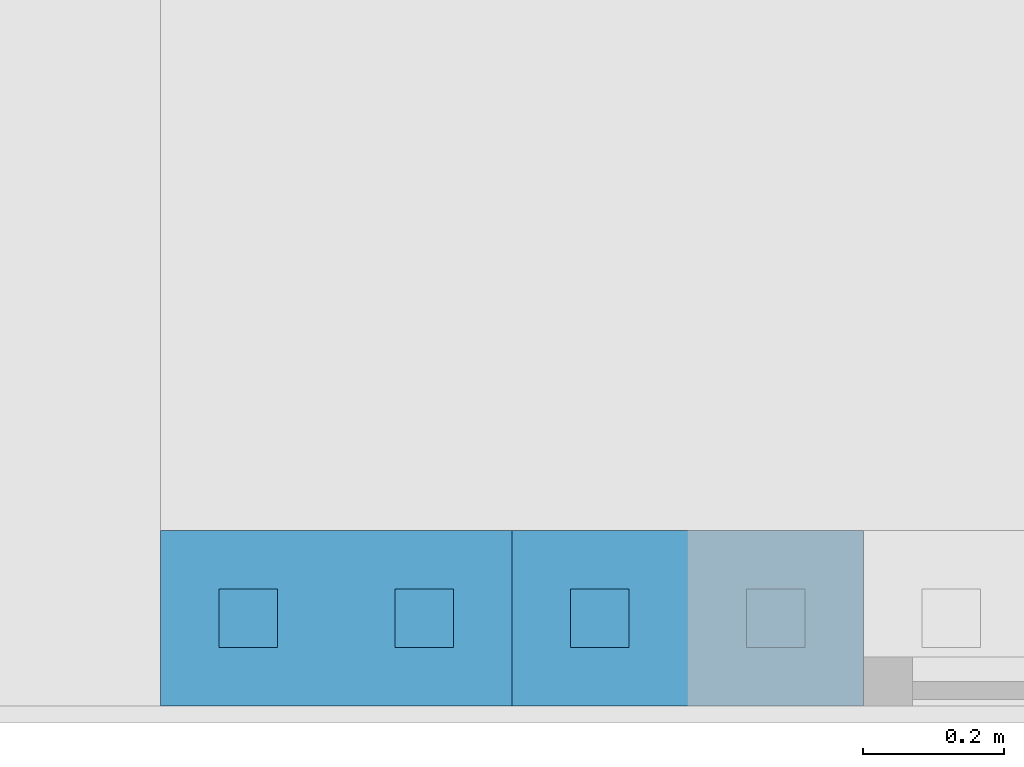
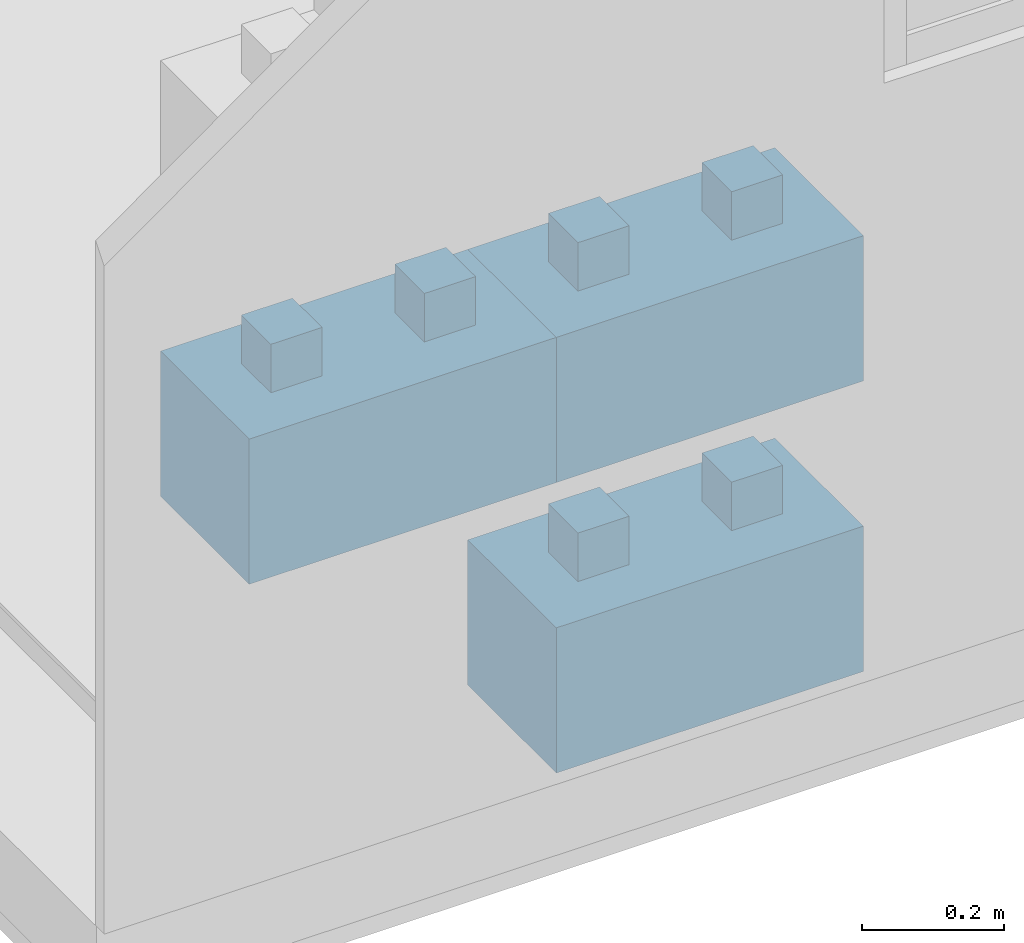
# One storey, part 5 of 9: 3 walls.
"""IFC4 building model written with IfcOpenShell, lengths in centimetres."""

from ifc_helpers import new_model, entity, si_unit, converted_unit, direction, frame, origin, place, context, subcontext, project, spatial, indexed_curve, outline, extrude, material, type_object, element, save


model = new_model("IFC4")

# Units and contexts
model_context = context("Model", 3, precision=0.001, world=origin(), true_north=direction((0.0, 1.0)))
body_context = subcontext(model_context, "Body", "Model", "MODEL_VIEW")
ifc_project = project(units=[si_unit("LENGTHUNIT", "METRE", prefix="CENTI"), si_unit("AREAUNIT", "SQUARE_METRE"), si_unit("VOLUMEUNIT", "CUBIC_METRE"), converted_unit("PLANEANGLEUNIT", "DEGREE", entity("IfcPlaneAngleMeasure", 0.017453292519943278), si_unit("PLANEANGLEUNIT", "RADIAN"), dimensions=[0, 0, 0, 0, 0, 0, 0])], contexts=[model_context])

# Site, building, storey
site_placement = place(None, origin())
site = spatial("IfcSite", under=ifc_project, at=site_placement, Name="Default", CompositionType="ELEMENT")
building_placement = place(site_placement, origin())
building = spatial("IfcBuilding", under=site, at=building_placement, CompositionType="ELEMENT")
storey_placement = place(building_placement, frame((0.0, 0.0, -4.0)))
storey = spatial("IfcBuildingStorey", under=building, at=storey_placement, Name="L00__ABOVE Slab", CompositionType="ELEMENT", Elevation=-4.000000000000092)

# Walls
ifc_material = material(Name="Miscellaneous__Timber Block__Triqbriq, X", Category="Miscellaneous")
wall_type = type_object("IfcWallType", Name="Columns : wll_s__TIMBER BLOCK__Triqbriq, Full Width__wp : WS25", PredefinedType="SOLIDWALL", material=ifc_material)
wall_1_placement = place(storey_placement, frame((2956.828914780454, 2128.520030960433, 50.0)))
element("IfcWall", 1, at=wall_1_placement, inside=storey, type_object=wall_type, material=ifc_material, Name="Columns : wll_s__TIMBER BLOCK__Triqbriq, Full Width__wp : WS25", PredefinedType="SOLIDWALL", context=body_context, shape_type="SweptSolid", body=[
    extrude(outline(indexed_curve([(-4.166666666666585, -4.166666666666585), (4.166666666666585, -4.166666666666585), (4.166666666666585, 4.166666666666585), (-4.166666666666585, 4.166666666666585), (-4.166666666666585, -4.166666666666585)], self_intersect=False)), frame((37.50000000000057, 12.500000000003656, 16.666666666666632), z_axis=(0.0, 0.0, 1.0), x_axis=(0.0, 1.0, 0.0)), (0.0, 0.0, 1.0), 16.666666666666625),
    extrude(outline(indexed_curve([(-4.166666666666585, -4.166666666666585), (4.166666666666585, -4.166666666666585), (4.166666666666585, 4.166666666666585), (-4.166666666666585, 4.166666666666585), (-4.166666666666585, -4.166666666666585)], self_intersect=False)), frame((12.500000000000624, 12.500000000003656, 16.666666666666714), z_axis=(0.0, 0.0, 1.0), x_axis=(0.0, 1.0, 0.0)), (0.0, 0.0, 1.0), 16.666666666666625),
    extrude(outline(indexed_curve([(-4.166666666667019, -4.166666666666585), (4.166666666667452, -4.166666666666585), (4.166666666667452, 4.166666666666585), (-4.166666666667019, 4.166666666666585), (-4.166666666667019, -4.166666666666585)], self_intersect=False)), frame((45.83333333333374, 20.833333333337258, 8.333333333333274), z_axis=(0.0, 0.0, 1.0), x_axis=(0.0, 1.0, 0.0)), (0.0, 0.0, 1.0), 8.333333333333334),
    extrude(outline(indexed_curve([(-4.166666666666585, -4.166666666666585), (4.166666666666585, -4.166666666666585), (4.166666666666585, 4.166666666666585), (-4.166666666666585, 4.166666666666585), (-4.166666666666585, -4.166666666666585)], self_intersect=False)), frame((45.83333333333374, 4.166666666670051, 8.333333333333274), z_axis=(0.0, 0.0, 1.0), x_axis=(0.0, 1.0, 0.0)), (0.0, 0.0, 1.0), 8.333333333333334),
    extrude(outline(indexed_curve([(-4.166666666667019, -4.166666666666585), (4.166666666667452, -4.166666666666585), (4.166666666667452, 4.166666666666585), (-4.166666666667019, 4.166666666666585), (-4.166666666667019, -4.166666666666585)], self_intersect=False)), frame((4.166666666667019, 20.833333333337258, 8.333333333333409), z_axis=(0.0, 0.0, 1.0), x_axis=(0.0, 1.0, 0.0)), (0.0, 0.0, 1.0), 8.333333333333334),
    extrude(outline(indexed_curve([(-4.166666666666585, -4.166666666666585), (4.166666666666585, -4.166666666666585), (4.166666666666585, 4.166666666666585), (-4.166666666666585, 4.166666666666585), (-4.166666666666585, -4.166666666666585)], self_intersect=False)), frame((4.166666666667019, 4.166666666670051, 8.333333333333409), z_axis=(0.0, 0.0, 1.0), x_axis=(0.0, 1.0, 0.0)), (0.0, 0.0, 1.0), 8.333333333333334),
    extrude(outline(indexed_curve([(-4.166666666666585, -8.333333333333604), (4.166666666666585, -8.333333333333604), (4.166666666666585, 8.33333333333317), (-4.166666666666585, 8.33333333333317), (-4.166666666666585, -8.333333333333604)], self_intersect=False)), frame((25.0, 4.166666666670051, 8.333333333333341), z_axis=(0.0, 0.0, 1.0), x_axis=(0.0, 1.0, 0.0)), (0.0, 0.0, 1.0), 8.333333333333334),
    extrude(outline(indexed_curve([(-4.166666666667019, -8.333333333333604), (4.166666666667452, -8.333333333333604), (4.166666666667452, 8.33333333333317), (-4.166666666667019, 8.33333333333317), (-4.166666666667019, -8.333333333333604)], self_intersect=False)), frame((25.0, 20.833333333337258, 8.333333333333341), z_axis=(0.0, 0.0, 1.0), x_axis=(0.0, 1.0, 0.0)), (0.0, 0.0, 1.0), 8.333333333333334),
    extrude(outline(indexed_curve([(-4.166666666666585, -24.999999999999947), (4.166666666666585, -24.999999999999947), (4.166666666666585, 24.999999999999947), (-4.166666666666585, 24.999999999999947), (-4.166666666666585, -24.999999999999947)], self_intersect=False)), frame((25.0, 12.500000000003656, 8.333333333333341), z_axis=(0.0, 0.0, 1.0), x_axis=(0.0, 1.0, 0.0)), (0.0, 0.0, 1.0), 8.333333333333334),
    extrude(outline(indexed_curve([(-12.500000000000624, -4.166666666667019), (12.50000000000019, -4.166666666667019), (12.50000000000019, 4.166666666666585), (-12.500000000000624, 4.166666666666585), (-12.500000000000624, -4.166666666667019)], self_intersect=False)), frame((29.1666666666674, 12.50000000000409, 0.0), z_axis=(0.0, 0.0, 1.0), x_axis=(0.0, 1.0, 0.0)), (0.0, 0.0, 1.0), 8.333333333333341),
    extrude(outline(indexed_curve([(-12.500000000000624, -4.166666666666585), (12.50000000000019, -4.166666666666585), (12.50000000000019, 4.166666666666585), (-12.500000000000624, 4.166666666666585), (-12.500000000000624, -4.166666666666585)], self_intersect=False)), frame((20.833333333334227, 12.50000000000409, 0.0), z_axis=(0.0, 0.0, 1.0), x_axis=(0.0, 1.0, 0.0)), (0.0, 0.0, 1.0), 8.333333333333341),
    extrude(outline(indexed_curve([(-12.500000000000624, -4.166666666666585), (12.50000000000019, -4.166666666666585), (12.50000000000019, 4.166666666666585), (-12.500000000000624, 4.166666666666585), (-12.500000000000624, -4.166666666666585)], self_intersect=False)), frame((45.833333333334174, 12.50000000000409, 0.0), z_axis=(0.0, 0.0, 1.0), x_axis=(0.0, 1.0, 0.0)), (0.0, 0.0, 1.0), 8.333333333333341),
    extrude(outline(indexed_curve([(-12.500000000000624, -4.166666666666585), (12.50000000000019, -4.166666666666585), (12.50000000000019, 4.166666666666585), (-12.500000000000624, 4.166666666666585), (-12.500000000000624, -4.166666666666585)], self_intersect=False)), frame((4.166666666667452, 12.50000000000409, 0.0), z_axis=(0.0, 0.0, 1.0), x_axis=(0.0, 1.0, 0.0)), (0.0, 0.0, 1.0), 8.333333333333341),
    extrude(outline(indexed_curve([(-4.166666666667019, -4.166666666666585), (4.166666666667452, -4.166666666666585), (4.166666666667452, 4.166666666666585), (-4.166666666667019, 4.166666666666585), (-4.166666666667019, -4.166666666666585)], self_intersect=False)), frame((37.500000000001, 20.833333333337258, 0.0), z_axis=(0.0, 0.0, 1.0), x_axis=(0.0, 1.0, 0.0)), (0.0, 0.0, 1.0), 24.999999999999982),
    extrude(outline(indexed_curve([(-4.166666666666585, -4.166666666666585), (4.166666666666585, -4.166666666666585), (4.166666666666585, 4.166666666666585), (-4.166666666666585, 4.166666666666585), (-4.166666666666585, -4.166666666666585)], self_intersect=False)), frame((37.500000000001, 4.166666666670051, 0.0), z_axis=(0.0, 0.0, 1.0), x_axis=(0.0, 1.0, 0.0)), (0.0, 0.0, 1.0), 24.999999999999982),
    extrude(outline(indexed_curve([(-4.166666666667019, -4.166666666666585), (4.166666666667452, -4.166666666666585), (4.166666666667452, 4.166666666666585), (-4.166666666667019, 4.166666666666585), (-4.166666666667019, -4.166666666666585)], self_intersect=False)), frame((12.500000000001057, 20.833333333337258, 0.0), z_axis=(0.0, 0.0, 1.0), x_axis=(0.0, 1.0, 0.0)), (0.0, 0.0, 1.0), 24.999999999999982),
    extrude(outline(indexed_curve([(-4.166666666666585, -4.166666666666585), (4.166666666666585, -4.166666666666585), (4.166666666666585, 4.166666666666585), (-4.166666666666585, 4.166666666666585), (-4.166666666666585, -4.166666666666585)], self_intersect=False)), frame((12.500000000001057, 4.166666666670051, 0.0), z_axis=(0.0, 0.0, 1.0), x_axis=(0.0, 1.0, 0.0)), (0.0, 0.0, 1.0), 24.999999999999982),
    extrude(outline(indexed_curve([(-12.500000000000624, -4.166666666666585), (12.50000000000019, -4.166666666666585), (12.50000000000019, 4.166666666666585), (-12.500000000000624, 4.166666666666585), (-12.500000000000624, -4.166666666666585)], self_intersect=False)), frame((45.83333333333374, 12.50000000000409, 16.666666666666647), z_axis=(0.0, 0.0, 1.0), x_axis=(0.0, 1.0, 0.0)), (0.0, 0.0, 1.0), 8.333333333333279),
    extrude(outline(indexed_curve([(-12.500000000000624, -4.166666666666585), (12.50000000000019, -4.166666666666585), (12.50000000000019, 4.166666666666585), (-12.500000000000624, 4.166666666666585), (-12.500000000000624, -4.166666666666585)], self_intersect=False)), frame((29.1666666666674, 12.50000000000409, 16.6666666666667), z_axis=(0.0, 0.0, 1.0), x_axis=(0.0, 1.0, 0.0)), (0.0, 0.0, 1.0), 8.333333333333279),
    extrude(outline(indexed_curve([(-12.500000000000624, -4.166666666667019), (12.50000000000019, -4.166666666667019), (12.50000000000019, 4.166666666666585), (-12.500000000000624, 4.166666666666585), (-12.500000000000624, -4.166666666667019)], self_intersect=False)), frame((20.833333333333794, 12.50000000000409, 16.66666666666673), z_axis=(0.0, 0.0, 1.0), x_axis=(0.0, 1.0, 0.0)), (0.0, 0.0, 1.0), 8.333333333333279),
    extrude(outline(indexed_curve([(-12.500000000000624, -4.166666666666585), (12.50000000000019, -4.166666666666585), (12.50000000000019, 4.166666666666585), (-12.500000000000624, 4.166666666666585), (-12.500000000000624, -4.166666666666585)], self_intersect=False)), frame((4.166666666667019, 12.50000000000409, 16.66666666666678), z_axis=(0.0, 0.0, 1.0), x_axis=(0.0, 1.0, 0.0)), (0.0, 0.0, 1.0), 8.333333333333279),
])
wall_2_placement = place(storey_placement, frame((2906.8289147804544, 2128.520030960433, 50.0)))
element("IfcWall", 2, at=wall_2_placement, inside=storey, type_object=wall_type, material=ifc_material, Name="Columns : wll_s__TIMBER BLOCK__Triqbriq, Full Width__wp : WS25", PredefinedType="SOLIDWALL", context=body_context, shape_type="SweptSolid", body=[
    extrude(outline(indexed_curve([(-4.166666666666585, -4.166666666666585), (4.166666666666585, -4.166666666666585), (4.166666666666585, 4.166666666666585), (-4.166666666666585, 4.166666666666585), (-4.166666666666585, -4.166666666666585)], self_intersect=False)), frame((37.50000000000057, 12.500000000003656, 16.666666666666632), z_axis=(0.0, 0.0, 1.0), x_axis=(0.0, 1.0, 0.0)), (0.0, 0.0, 1.0), 16.666666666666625),
    extrude(outline(indexed_curve([(-4.166666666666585, -4.166666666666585), (4.166666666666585, -4.166666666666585), (4.166666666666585, 4.166666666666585), (-4.166666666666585, 4.166666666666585), (-4.166666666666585, -4.166666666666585)], self_intersect=False)), frame((12.500000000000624, 12.500000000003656, 16.666666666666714), z_axis=(0.0, 0.0, 1.0), x_axis=(0.0, 1.0, 0.0)), (0.0, 0.0, 1.0), 16.666666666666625),
    extrude(outline(indexed_curve([(-4.166666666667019, -4.166666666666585), (4.166666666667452, -4.166666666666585), (4.166666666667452, 4.166666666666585), (-4.166666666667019, 4.166666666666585), (-4.166666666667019, -4.166666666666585)], self_intersect=False)), frame((45.83333333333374, 20.833333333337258, 8.333333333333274), z_axis=(0.0, 0.0, 1.0), x_axis=(0.0, 1.0, 0.0)), (0.0, 0.0, 1.0), 8.333333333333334),
    extrude(outline(indexed_curve([(-4.166666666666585, -4.166666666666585), (4.166666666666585, -4.166666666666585), (4.166666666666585, 4.166666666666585), (-4.166666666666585, 4.166666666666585), (-4.166666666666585, -4.166666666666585)], self_intersect=False)), frame((45.83333333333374, 4.166666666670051, 8.333333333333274), z_axis=(0.0, 0.0, 1.0), x_axis=(0.0, 1.0, 0.0)), (0.0, 0.0, 1.0), 8.333333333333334),
    extrude(outline(indexed_curve([(-4.166666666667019, -4.166666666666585), (4.166666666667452, -4.166666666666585), (4.166666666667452, 4.166666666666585), (-4.166666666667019, 4.166666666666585), (-4.166666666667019, -4.166666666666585)], self_intersect=False)), frame((4.166666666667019, 20.833333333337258, 8.333333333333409), z_axis=(0.0, 0.0, 1.0), x_axis=(0.0, 1.0, 0.0)), (0.0, 0.0, 1.0), 8.333333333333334),
    extrude(outline(indexed_curve([(-4.166666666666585, -4.166666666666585), (4.166666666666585, -4.166666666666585), (4.166666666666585, 4.166666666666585), (-4.166666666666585, 4.166666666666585), (-4.166666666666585, -4.166666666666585)], self_intersect=False)), frame((4.166666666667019, 4.166666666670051, 8.333333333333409), z_axis=(0.0, 0.0, 1.0), x_axis=(0.0, 1.0, 0.0)), (0.0, 0.0, 1.0), 8.333333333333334),
    extrude(outline(indexed_curve([(-4.166666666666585, -8.33333333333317), (4.166666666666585, -8.33333333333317), (4.166666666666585, 8.333333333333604), (-4.166666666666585, 8.333333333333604), (-4.166666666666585, -8.33333333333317)], self_intersect=False)), frame((25.0, 4.166666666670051, 8.333333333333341), z_axis=(0.0, 0.0, 1.0), x_axis=(0.0, 1.0, 0.0)), (0.0, 0.0, 1.0), 8.333333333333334),
    extrude(outline(indexed_curve([(-4.166666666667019, -8.33333333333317), (4.166666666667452, -8.33333333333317), (4.166666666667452, 8.333333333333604), (-4.166666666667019, 8.333333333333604), (-4.166666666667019, -8.33333333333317)], self_intersect=False)), frame((25.0, 20.833333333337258, 8.333333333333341), z_axis=(0.0, 0.0, 1.0), x_axis=(0.0, 1.0, 0.0)), (0.0, 0.0, 1.0), 8.333333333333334),
    extrude(outline(indexed_curve([(-4.166666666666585, -24.999999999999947), (4.166666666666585, -24.999999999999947), (4.166666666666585, 24.999999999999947), (-4.166666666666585, 24.999999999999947), (-4.166666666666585, -24.999999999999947)], self_intersect=False)), frame((25.0, 12.500000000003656, 8.333333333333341), z_axis=(0.0, 0.0, 1.0), x_axis=(0.0, 1.0, 0.0)), (0.0, 0.0, 1.0), 8.333333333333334),
    extrude(outline(indexed_curve([(-12.500000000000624, -4.166666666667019), (12.50000000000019, -4.166666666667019), (12.50000000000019, 4.166666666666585), (-12.500000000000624, 4.166666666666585), (-12.500000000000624, -4.166666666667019)], self_intersect=False)), frame((29.1666666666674, 12.50000000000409, 0.0), z_axis=(0.0, 0.0, 1.0), x_axis=(0.0, 1.0, 0.0)), (0.0, 0.0, 1.0), 8.333333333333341),
    extrude(outline(indexed_curve([(-12.500000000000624, -4.166666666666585), (12.50000000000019, -4.166666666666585), (12.50000000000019, 4.166666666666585), (-12.500000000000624, 4.166666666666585), (-12.500000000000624, -4.166666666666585)], self_intersect=False)), frame((20.833333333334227, 12.50000000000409, 0.0), z_axis=(0.0, 0.0, 1.0), x_axis=(0.0, 1.0, 0.0)), (0.0, 0.0, 1.0), 8.333333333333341),
    extrude(outline(indexed_curve([(-12.500000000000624, -4.166666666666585), (12.50000000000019, -4.166666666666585), (12.50000000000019, 4.166666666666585), (-12.500000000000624, 4.166666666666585), (-12.500000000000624, -4.166666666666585)], self_intersect=False)), frame((45.833333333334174, 12.50000000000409, 0.0), z_axis=(0.0, 0.0, 1.0), x_axis=(0.0, 1.0, 0.0)), (0.0, 0.0, 1.0), 8.333333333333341),
    extrude(outline(indexed_curve([(-12.500000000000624, -4.166666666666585), (12.50000000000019, -4.166666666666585), (12.50000000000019, 4.166666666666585), (-12.500000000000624, 4.166666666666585), (-12.500000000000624, -4.166666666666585)], self_intersect=False)), frame((4.166666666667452, 12.50000000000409, 0.0), z_axis=(0.0, 0.0, 1.0), x_axis=(0.0, 1.0, 0.0)), (0.0, 0.0, 1.0), 8.333333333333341),
    extrude(outline(indexed_curve([(-4.166666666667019, -4.166666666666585), (4.166666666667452, -4.166666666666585), (4.166666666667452, 4.166666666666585), (-4.166666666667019, 4.166666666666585), (-4.166666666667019, -4.166666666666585)], self_intersect=False)), frame((37.500000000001, 20.833333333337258, 0.0), z_axis=(0.0, 0.0, 1.0), x_axis=(0.0, 1.0, 0.0)), (0.0, 0.0, 1.0), 24.999999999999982),
    extrude(outline(indexed_curve([(-4.166666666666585, -4.166666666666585), (4.166666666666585, -4.166666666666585), (4.166666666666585, 4.166666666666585), (-4.166666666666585, 4.166666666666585), (-4.166666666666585, -4.166666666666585)], self_intersect=False)), frame((37.500000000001, 4.166666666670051, 0.0), z_axis=(0.0, 0.0, 1.0), x_axis=(0.0, 1.0, 0.0)), (0.0, 0.0, 1.0), 24.999999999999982),
    extrude(outline(indexed_curve([(-4.166666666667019, -4.166666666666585), (4.166666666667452, -4.166666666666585), (4.166666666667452, 4.166666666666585), (-4.166666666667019, 4.166666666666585), (-4.166666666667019, -4.166666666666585)], self_intersect=False)), frame((12.500000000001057, 20.833333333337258, 0.0), z_axis=(0.0, 0.0, 1.0), x_axis=(0.0, 1.0, 0.0)), (0.0, 0.0, 1.0), 24.999999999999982),
    extrude(outline(indexed_curve([(-4.166666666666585, -4.166666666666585), (4.166666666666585, -4.166666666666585), (4.166666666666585, 4.166666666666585), (-4.166666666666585, 4.166666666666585), (-4.166666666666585, -4.166666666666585)], self_intersect=False)), frame((12.500000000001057, 4.166666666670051, 0.0), z_axis=(0.0, 0.0, 1.0), x_axis=(0.0, 1.0, 0.0)), (0.0, 0.0, 1.0), 24.999999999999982),
    extrude(outline(indexed_curve([(-12.500000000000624, -4.166666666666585), (12.50000000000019, -4.166666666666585), (12.50000000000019, 4.166666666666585), (-12.500000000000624, 4.166666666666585), (-12.500000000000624, -4.166666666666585)], self_intersect=False)), frame((45.83333333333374, 12.50000000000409, 16.666666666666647), z_axis=(0.0, 0.0, 1.0), x_axis=(0.0, 1.0, 0.0)), (0.0, 0.0, 1.0), 8.333333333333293),
    extrude(outline(indexed_curve([(-12.500000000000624, -4.166666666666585), (12.50000000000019, -4.166666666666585), (12.50000000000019, 4.166666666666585), (-12.500000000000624, 4.166666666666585), (-12.500000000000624, -4.166666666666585)], self_intersect=False)), frame((29.1666666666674, 12.50000000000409, 16.6666666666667), z_axis=(0.0, 0.0, 1.0), x_axis=(0.0, 1.0, 0.0)), (0.0, 0.0, 1.0), 8.333333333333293),
    extrude(outline(indexed_curve([(-12.500000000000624, -4.166666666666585), (12.50000000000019, -4.166666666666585), (12.50000000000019, 4.166666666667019), (-12.500000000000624, 4.166666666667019), (-12.500000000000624, -4.166666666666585)], self_intersect=False)), frame((20.833333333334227, 12.50000000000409, 16.66666666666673), z_axis=(0.0, 0.0, 1.0), x_axis=(0.0, 1.0, 0.0)), (0.0, 0.0, 1.0), 8.333333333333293),
    extrude(outline(indexed_curve([(-12.500000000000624, -4.166666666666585), (12.50000000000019, -4.166666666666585), (12.50000000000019, 4.166666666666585), (-12.500000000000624, 4.166666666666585), (-12.500000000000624, -4.166666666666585)], self_intersect=False)), frame((4.166666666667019, 12.50000000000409, 16.66666666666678), z_axis=(0.0, 0.0, 1.0), x_axis=(0.0, 1.0, 0.0)), (0.0, 0.0, 1.0), 8.333333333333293),
])
wall_3_placement = place(storey_placement, frame((2956.828914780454, 2128.520030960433, 0.0)))
element("IfcWall", 3, at=wall_3_placement, inside=storey, type_object=wall_type, material=ifc_material, Name="Columns : wll_s__TIMBER BLOCK__Triqbriq, Full Width__wp : WS25", PredefinedType="SOLIDWALL", context=body_context, shape_type="SweptSolid", body=[
    extrude(outline(indexed_curve([(-4.166666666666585, -4.166666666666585), (4.166666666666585, -4.166666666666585), (4.166666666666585, 4.166666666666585), (-4.166666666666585, 4.166666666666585), (-4.166666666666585, -4.166666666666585)], self_intersect=False)), frame((37.50000000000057, 12.500000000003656, 16.666666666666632), z_axis=(0.0, 0.0, 1.0), x_axis=(0.0, 1.0, 0.0)), (0.0, 0.0, 1.0), 16.666666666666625),
    extrude(outline(indexed_curve([(-4.166666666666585, -4.166666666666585), (4.166666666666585, -4.166666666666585), (4.166666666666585, 4.166666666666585), (-4.166666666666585, 4.166666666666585), (-4.166666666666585, -4.166666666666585)], self_intersect=False)), frame((12.500000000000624, 12.500000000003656, 16.666666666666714), z_axis=(0.0, 0.0, 1.0), x_axis=(0.0, 1.0, 0.0)), (0.0, 0.0, 1.0), 16.666666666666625),
    extrude(outline(indexed_curve([(-4.166666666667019, -4.166666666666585), (4.166666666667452, -4.166666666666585), (4.166666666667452, 4.166666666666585), (-4.166666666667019, 4.166666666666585), (-4.166666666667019, -4.166666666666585)], self_intersect=False)), frame((45.83333333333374, 20.833333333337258, 8.333333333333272), z_axis=(0.0, 0.0, 1.0), x_axis=(0.0, 1.0, 0.0)), (0.0, 0.0, 1.0), 8.333333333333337),
    extrude(outline(indexed_curve([(-4.166666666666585, -4.166666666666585), (4.166666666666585, -4.166666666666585), (4.166666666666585, 4.166666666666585), (-4.166666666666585, 4.166666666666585), (-4.166666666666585, -4.166666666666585)], self_intersect=False)), frame((45.83333333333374, 4.166666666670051, 8.333333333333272), z_axis=(0.0, 0.0, 1.0), x_axis=(0.0, 1.0, 0.0)), (0.0, 0.0, 1.0), 8.333333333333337),
    extrude(outline(indexed_curve([(-4.166666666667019, -4.166666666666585), (4.166666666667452, -4.166666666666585), (4.166666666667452, 4.166666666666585), (-4.166666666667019, 4.166666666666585), (-4.166666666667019, -4.166666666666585)], self_intersect=False)), frame((4.166666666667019, 20.833333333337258, 8.333333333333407), z_axis=(0.0, 0.0, 1.0), x_axis=(0.0, 1.0, 0.0)), (0.0, 0.0, 1.0), 8.333333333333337),
    extrude(outline(indexed_curve([(-4.166666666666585, -4.166666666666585), (4.166666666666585, -4.166666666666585), (4.166666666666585, 4.166666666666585), (-4.166666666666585, 4.166666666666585), (-4.166666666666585, -4.166666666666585)], self_intersect=False)), frame((4.166666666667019, 4.166666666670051, 8.333333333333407), z_axis=(0.0, 0.0, 1.0), x_axis=(0.0, 1.0, 0.0)), (0.0, 0.0, 1.0), 8.333333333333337),
    extrude(outline(indexed_curve([(-4.166666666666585, -8.333333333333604), (4.166666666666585, -8.333333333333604), (4.166666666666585, 8.33333333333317), (-4.166666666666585, 8.33333333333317), (-4.166666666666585, -8.333333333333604)], self_intersect=False)), frame((25.0, 4.166666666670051, 8.33333333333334), z_axis=(0.0, 0.0, 1.0), x_axis=(0.0, 1.0, 0.0)), (0.0, 0.0, 1.0), 8.333333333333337),
    extrude(outline(indexed_curve([(-4.166666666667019, -8.333333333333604), (4.166666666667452, -8.333333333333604), (4.166666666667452, 8.33333333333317), (-4.166666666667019, 8.33333333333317), (-4.166666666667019, -8.333333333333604)], self_intersect=False)), frame((25.0, 20.833333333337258, 8.33333333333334), z_axis=(0.0, 0.0, 1.0), x_axis=(0.0, 1.0, 0.0)), (0.0, 0.0, 1.0), 8.333333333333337),
    extrude(outline(indexed_curve([(-4.166666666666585, -24.999999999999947), (4.166666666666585, -24.999999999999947), (4.166666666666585, 24.999999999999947), (-4.166666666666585, 24.999999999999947), (-4.166666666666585, -24.999999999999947)], self_intersect=False)), frame((25.0, 12.500000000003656, 8.33333333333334), z_axis=(0.0, 0.0, 1.0), x_axis=(0.0, 1.0, 0.0)), (0.0, 0.0, 1.0), 8.333333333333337),
    extrude(outline(indexed_curve([(-12.500000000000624, -4.166666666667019), (12.50000000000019, -4.166666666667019), (12.50000000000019, 4.166666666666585), (-12.500000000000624, 4.166666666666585), (-12.500000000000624, -4.166666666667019)], self_intersect=False)), frame((29.1666666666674, 12.50000000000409, 0.0), z_axis=(0.0, 0.0, 1.0), x_axis=(0.0, 1.0, 0.0)), (0.0, 0.0, 1.0), 8.333333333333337),
    extrude(outline(indexed_curve([(-12.500000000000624, -4.166666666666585), (12.50000000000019, -4.166666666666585), (12.50000000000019, 4.166666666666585), (-12.500000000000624, 4.166666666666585), (-12.500000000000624, -4.166666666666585)], self_intersect=False)), frame((20.833333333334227, 12.50000000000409, 0.0), z_axis=(0.0, 0.0, 1.0), x_axis=(0.0, 1.0, 0.0)), (0.0, 0.0, 1.0), 8.333333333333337),
    extrude(outline(indexed_curve([(-12.500000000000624, -4.166666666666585), (12.50000000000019, -4.166666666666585), (12.50000000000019, 4.166666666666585), (-12.500000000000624, 4.166666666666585), (-12.500000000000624, -4.166666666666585)], self_intersect=False)), frame((45.833333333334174, 12.50000000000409, 0.0), z_axis=(0.0, 0.0, 1.0), x_axis=(0.0, 1.0, 0.0)), (0.0, 0.0, 1.0), 8.333333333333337),
    extrude(outline(indexed_curve([(-12.500000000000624, -4.166666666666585), (12.50000000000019, -4.166666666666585), (12.50000000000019, 4.166666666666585), (-12.500000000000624, 4.166666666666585), (-12.500000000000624, -4.166666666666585)], self_intersect=False)), frame((4.166666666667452, 12.50000000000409, 0.0), z_axis=(0.0, 0.0, 1.0), x_axis=(0.0, 1.0, 0.0)), (0.0, 0.0, 1.0), 8.333333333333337),
    extrude(outline(indexed_curve([(-4.166666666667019, -4.166666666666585), (4.166666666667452, -4.166666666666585), (4.166666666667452, 4.166666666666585), (-4.166666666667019, 4.166666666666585), (-4.166666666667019, -4.166666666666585)], self_intersect=False)), frame((37.500000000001, 20.833333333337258, 0.0), z_axis=(0.0, 0.0, 1.0), x_axis=(0.0, 1.0, 0.0)), (0.0, 0.0, 1.0), 24.99999999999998),
    extrude(outline(indexed_curve([(-4.166666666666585, -4.166666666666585), (4.166666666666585, -4.166666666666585), (4.166666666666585, 4.166666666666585), (-4.166666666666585, 4.166666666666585), (-4.166666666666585, -4.166666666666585)], self_intersect=False)), frame((37.500000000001, 4.166666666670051, 0.0), z_axis=(0.0, 0.0, 1.0), x_axis=(0.0, 1.0, 0.0)), (0.0, 0.0, 1.0), 24.99999999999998),
    extrude(outline(indexed_curve([(-4.166666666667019, -4.166666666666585), (4.166666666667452, -4.166666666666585), (4.166666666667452, 4.166666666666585), (-4.166666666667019, 4.166666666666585), (-4.166666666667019, -4.166666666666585)], self_intersect=False)), frame((12.500000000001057, 20.833333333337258, 0.0), z_axis=(0.0, 0.0, 1.0), x_axis=(0.0, 1.0, 0.0)), (0.0, 0.0, 1.0), 24.99999999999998),
    extrude(outline(indexed_curve([(-4.166666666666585, -4.166666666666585), (4.166666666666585, -4.166666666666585), (4.166666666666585, 4.166666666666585), (-4.166666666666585, 4.166666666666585), (-4.166666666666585, -4.166666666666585)], self_intersect=False)), frame((12.500000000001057, 4.166666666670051, 0.0), z_axis=(0.0, 0.0, 1.0), x_axis=(0.0, 1.0, 0.0)), (0.0, 0.0, 1.0), 24.99999999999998),
    extrude(outline(indexed_curve([(-12.500000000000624, -4.166666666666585), (12.50000000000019, -4.166666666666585), (12.50000000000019, 4.166666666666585), (-12.500000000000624, 4.166666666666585), (-12.500000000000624, -4.166666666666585)], self_intersect=False)), frame((45.83333333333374, 12.50000000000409, 16.666666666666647), z_axis=(0.0, 0.0, 1.0), x_axis=(0.0, 1.0, 0.0)), (0.0, 0.0, 1.0), 8.333333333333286),
    extrude(outline(indexed_curve([(-12.500000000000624, -4.166666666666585), (12.50000000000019, -4.166666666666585), (12.50000000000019, 4.166666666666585), (-12.500000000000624, 4.166666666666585), (-12.500000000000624, -4.166666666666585)], self_intersect=False)), frame((29.1666666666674, 12.50000000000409, 16.6666666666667), z_axis=(0.0, 0.0, 1.0), x_axis=(0.0, 1.0, 0.0)), (0.0, 0.0, 1.0), 8.333333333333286),
    extrude(outline(indexed_curve([(-12.500000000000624, -4.166666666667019), (12.50000000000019, -4.166666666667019), (12.50000000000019, 4.166666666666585), (-12.500000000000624, 4.166666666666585), (-12.500000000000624, -4.166666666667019)], self_intersect=False)), frame((20.833333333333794, 12.50000000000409, 16.66666666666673), z_axis=(0.0, 0.0, 1.0), x_axis=(0.0, 1.0, 0.0)), (0.0, 0.0, 1.0), 8.333333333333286),
    extrude(outline(indexed_curve([(-12.500000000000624, -4.166666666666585), (12.50000000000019, -4.166666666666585), (12.50000000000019, 4.166666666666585), (-12.500000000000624, 4.166666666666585), (-12.500000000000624, -4.166666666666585)], self_intersect=False)), frame((4.166666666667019, 12.50000000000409, 16.66666666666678), z_axis=(0.0, 0.0, 1.0), x_axis=(0.0, 1.0, 0.0)), (0.0, 0.0, 1.0), 8.333333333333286),
])

save(model, "model.ifc")
